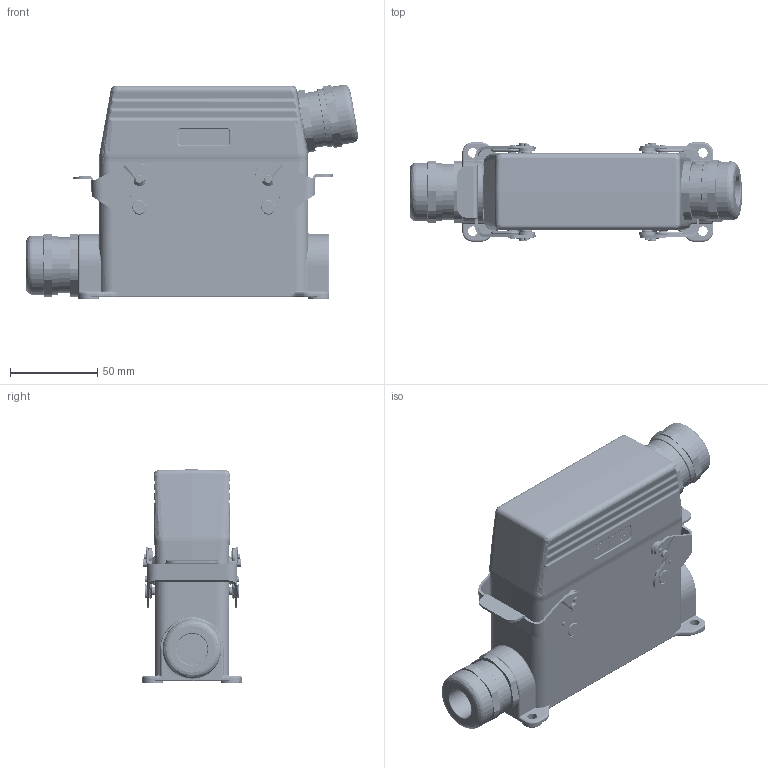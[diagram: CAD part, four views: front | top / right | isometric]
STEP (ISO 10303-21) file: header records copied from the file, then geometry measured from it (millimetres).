
FILE_DESCRIPTION (( 'STEP AP214' ), '1' );
FILE_NAME ('09124103225P HESH、24针、表面底座、侧出M25套件、配塑料接头.STEP', '2024-04-30T06:16:48', ( 'L' ), ( '' ), 'SwSTEP 2.0', 'SolidWorks 2019', '' );
FILE_SCHEMA (( 'AUTOMOTIVE_DESIGN' ));
Length unit declared in the file: millimetre
Products named in the file (6): H24B-TS-M25.step; H24B-SGR-M25.step; HESH-024-F.stp; FAS-25-P.step; 09124103225P HESH、24针、表面底座、侧出M25套件、配塑料接头; HESH-024-M.stp
Assembly tree (6 placements, depth 2):
  09124103225P HESH、24针、表面底座、侧出M25套件、配塑料接头
    H24B-TS-M25.step
    FAS-25-P.step  x2
    HESH-024-M.stp
    HESH-024-F.stp
    H24B-SGR-M25.step
Bounding box: 190.49 x 57 x 123.02 mm (x, y, z)
Volume: 387286.3 mm3; surface area: 187238.5 mm2
Topology: 6 solids, 11 shells, 4684 faces, 12185 edges, 7724 vertices
Faces by surface type: plane 2188, cylinder 1236, cone 626, bspline 294, torus 266, sphere 74
Entity records: 176846 total; most frequent: CARTESIAN_POINT 52450, ORIENTED_EDGE 23848, DIRECTION 22439, EDGE_CURVE 11924, AXIS2_PLACEMENT_3D 7896, VERTEX_POINT 7636, VECTOR 6647, LINE 6647
